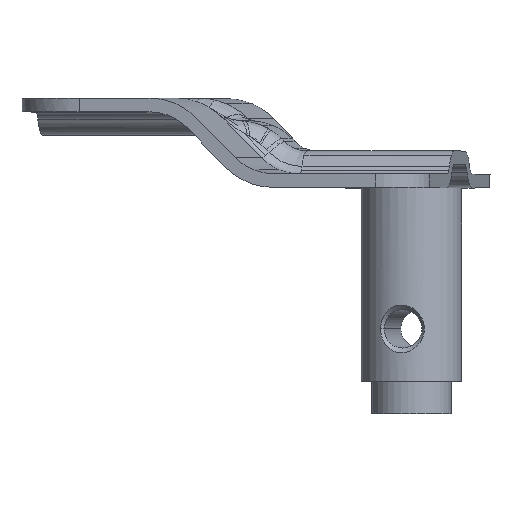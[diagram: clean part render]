
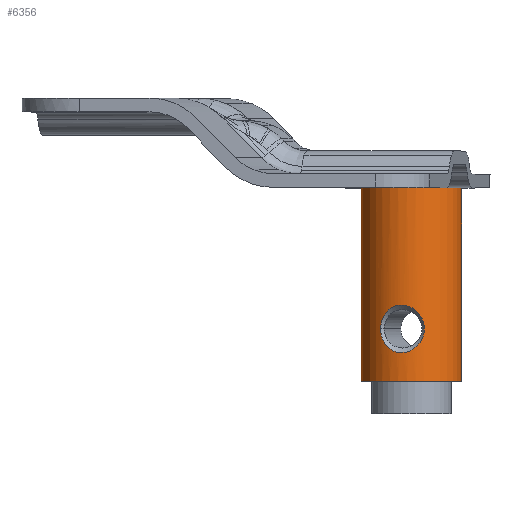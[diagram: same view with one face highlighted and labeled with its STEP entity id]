
A CAD part, top view. The second image highlights one B-rep face of the part: STEP entity #6356.
In plain terms, the highlighted cylindrical face has radius 11 mm (diameter 22 mm), a partial arc.
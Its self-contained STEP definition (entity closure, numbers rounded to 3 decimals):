
#6266=AXIS2_PLACEMENT_3D('Cylinder Axis2P3D',#6263,#6264,#6265) ;
#6270=AXIS2_PLACEMENT_3D('Circle Axis2P3D',#6268,#6269,$) ;
#6286=AXIS2_PLACEMENT_3D('Circle Axis2P3D',#6284,#6285,$) ;
#6263=CARTESIAN_POINT('Axis2P3D Location',(700.059,-980.437,610.682)) ;
#6268=CARTESIAN_POINT('Axis2P3D Location',(700.059,-1002.437,610.682)) ;
#6272=CARTESIAN_POINT('Vertex',(711.015,-1002.437,611.66)) ;
#6274=CARTESIAN_POINT('Vertex',(689.102,-1002.437,609.705)) ;
#6277=CARTESIAN_POINT('Line Origine',(711.015,-980.437,611.66)) ;
#6281=CARTESIAN_POINT('Vertex',(711.016,-960.249,611.66)) ;
#6284=CARTESIAN_POINT('Axis2P3D Location',(700.059,-960.249,610.682)) ;
#6288=CARTESIAN_POINT('Vertex',(689.103,-960.249,609.705)) ;
#6291=CARTESIAN_POINT('Line Origine',(689.102,-980.437,609.705)) ;
#6303=CARTESIAN_POINT('Control Point',(693.361,-990.999,619.408)) ;
#6304=CARTESIAN_POINT('Control Point',(693.361,-990.447,619.408)) ;
#6305=CARTESIAN_POINT('Control Point',(693.422,-989.896,619.455)) ;
#6306=CARTESIAN_POINT('Control Point',(693.544,-989.359,619.548)) ;
#6307=CARTESIAN_POINT('Control Point',(693.904,-988.339,619.811)) ;
#6308=CARTESIAN_POINT('Control Point',(694.49,-987.458,620.179)) ;
#6309=CARTESIAN_POINT('Control Point',(694.837,-987.063,620.379)) ;
#6310=CARTESIAN_POINT('Control Point',(695.599,-986.41,620.765)) ;
#6311=CARTESIAN_POINT('Control Point',(696.529,-985.996,621.117)) ;
#6312=CARTESIAN_POINT('Control Point',(697.005,-985.862,621.269)) ;
#6313=CARTESIAN_POINT('Control Point',(698.001,-985.739,621.518)) ;
#6314=CARTESIAN_POINT('Control Point',(699.013,-985.908,621.65)) ;
#6315=CARTESIAN_POINT('Control Point',(699.507,-986.065,621.684)) ;
#6316=CARTESIAN_POINT('Control Point',(700.488,-986.524,621.698)) ;
#6317=CARTESIAN_POINT('Control Point',(701.316,-987.214,621.622)) ;
#6318=CARTESIAN_POINT('Control Point',(701.698,-987.627,621.568)) ;
#6319=CARTESIAN_POINT('Control Point',(702.318,-988.499,621.455)) ;
#6320=CARTESIAN_POINT('Control Point',(702.702,-989.492,621.362)) ;
#6321=CARTESIAN_POINT('Control Point',(702.827,-989.987,621.329)) ;
#6322=CARTESIAN_POINT('Control Point',(702.889,-990.493,621.312)) ;
#6323=CARTESIAN_POINT('Control Point',(702.889,-990.999,621.312)) ;
#6324=CARTESIAN_POINT('Vertex',(693.361,-990.999,619.408)) ;
#6326=CARTESIAN_POINT('Vertex',(702.889,-990.999,621.312)) ;
#6330=CARTESIAN_POINT('Control Point',(702.889,-990.999,621.312)) ;
#6331=CARTESIAN_POINT('Control Point',(702.889,-991.55,621.312)) ;
#6332=CARTESIAN_POINT('Control Point',(702.815,-992.101,621.332)) ;
#6333=CARTESIAN_POINT('Control Point',(702.667,-992.638,621.371)) ;
#6334=CARTESIAN_POINT('Control Point',(702.275,-993.561,621.465)) ;
#6335=CARTESIAN_POINT('Control Point',(701.679,-994.369,621.568)) ;
#6336=CARTESIAN_POINT('Control Point',(701.376,-994.702,621.611)) ;
#6337=CARTESIAN_POINT('Control Point',(700.655,-995.345,621.684)) ;
#6338=CARTESIAN_POINT('Control Point',(699.799,-995.812,621.694)) ;
#6339=CARTESIAN_POINT('Control Point',(699.311,-996.003,621.674)) ;
#6340=CARTESIAN_POINT('Control Point',(698.308,-996.241,621.572)) ;
#6341=CARTESIAN_POINT('Control Point',(697.298,-996.188,621.349)) ;
#6342=CARTESIAN_POINT('Control Point',(696.814,-996.088,621.21)) ;
#6343=CARTESIAN_POINT('Control Point',(695.858,-995.741,620.877)) ;
#6344=CARTESIAN_POINT('Control Point',(695.059,-995.145,620.496)) ;
#6345=CARTESIAN_POINT('Control Point',(694.69,-994.776,620.295)) ;
#6346=CARTESIAN_POINT('Control Point',(694.016,-993.89,619.889)) ;
#6347=CARTESIAN_POINT('Control Point',(693.59,-992.833,619.584)) ;
#6348=CARTESIAN_POINT('Control Point',(693.438,-992.235,619.467)) ;
#6349=CARTESIAN_POINT('Control Point',(693.361,-991.617,619.408)) ;
#6350=CARTESIAN_POINT('Control Point',(693.361,-990.999,619.408)) ;
#6264=DIRECTION('Axis2P3D Direction',(0.,-1.,0.)) ;
#6265=DIRECTION('Axis2P3D XDirection',(0.996,0.,0.089)) ;
#6269=DIRECTION('Axis2P3D Direction',(0.,-1.,0.)) ;
#6278=DIRECTION('Vector Direction',(0.,-1.,0.)) ;
#6285=DIRECTION('Axis2P3D Direction',(0.,-1.,0.)) ;
#6292=DIRECTION('Vector Direction',(0.,-1.,0.)) ;
#6279=VECTOR('Line Direction',#6278,1.) ;
#6293=VECTOR('Line Direction',#6292,1.) ;
#6297=ORIENTED_EDGE('',*,*,#6276,.F.) ;
#6298=ORIENTED_EDGE('',*,*,#6283,.F.) ;
#6299=ORIENTED_EDGE('',*,*,#6290,.T.) ;
#6300=ORIENTED_EDGE('',*,*,#6295,.T.) ;
#6353=ORIENTED_EDGE('',*,*,#6328,.T.) ;
#6354=ORIENTED_EDGE('',*,*,#6351,.T.) ;
#6355=FACE_BOUND('',#6352,.T.) ;
#6356=ADVANCED_FACE('\X2\65CB8F6C8F74\X0\.1\\\X2\51E04F554F53\X0\.3',(#6301,#6355),#6267,.T.) ;
#6302=B_SPLINE_CURVE_WITH_KNOTS('',5,(#6303,#6304,#6305,#6306,#6307,#6308,#6309,#6310,#6311,#6312,#6313,#6314,#6315,#6316,#6317,#6318,#6319,#6320,#6321,#6322,#6323),.UNSPECIFIED.,.F.,.U.,(6,3,3,3,3,3,6),(0.,3.957,7.898,11.471,15.065,19.029,22.659),.UNSPECIFIED.) ;
#6329=B_SPLINE_CURVE_WITH_KNOTS('',5,(#6330,#6331,#6332,#6333,#6334,#6335,#6336,#6337,#6338,#6339,#6340,#6341,#6342,#6343,#6344,#6345,#6346,#6347,#6348,#6349,#6350),.UNSPECIFIED.,.F.,.U.,(6,3,3,3,3,3,6),(0.,3.962,7.15,10.784,14.338,18.245,22.687),.UNSPECIFIED.) ;
#6271=CIRCLE('generated circle',#6270,11.) ;
#6287=CIRCLE('generated circle',#6286,11.) ;
#6267=CYLINDRICAL_SURFACE('generated cylinder',#6266,11.) ;
#6276=EDGE_CURVE('',#6273,#6275,#6271,.T.) ;
#6283=EDGE_CURVE('',#6282,#6273,#6280,.T.) ;
#6290=EDGE_CURVE('',#6282,#6289,#6287,.T.) ;
#6295=EDGE_CURVE('',#6289,#6275,#6294,.T.) ;
#6328=EDGE_CURVE('',#6325,#6327,#6302,.T.) ;
#6351=EDGE_CURVE('',#6327,#6325,#6329,.T.) ;
#6296=EDGE_LOOP('',(#6297,#6298,#6299,#6300)) ;
#6352=EDGE_LOOP('',(#6353,#6354)) ;
#6301=FACE_OUTER_BOUND('',#6296,.T.) ;
#6280=LINE('Line',#6277,#6279) ;
#6294=LINE('Line',#6291,#6293) ;
#6273=VERTEX_POINT('',#6272) ;
#6275=VERTEX_POINT('',#6274) ;
#6282=VERTEX_POINT('',#6281) ;
#6289=VERTEX_POINT('',#6288) ;
#6325=VERTEX_POINT('',#6324) ;
#6327=VERTEX_POINT('',#6326) ;
